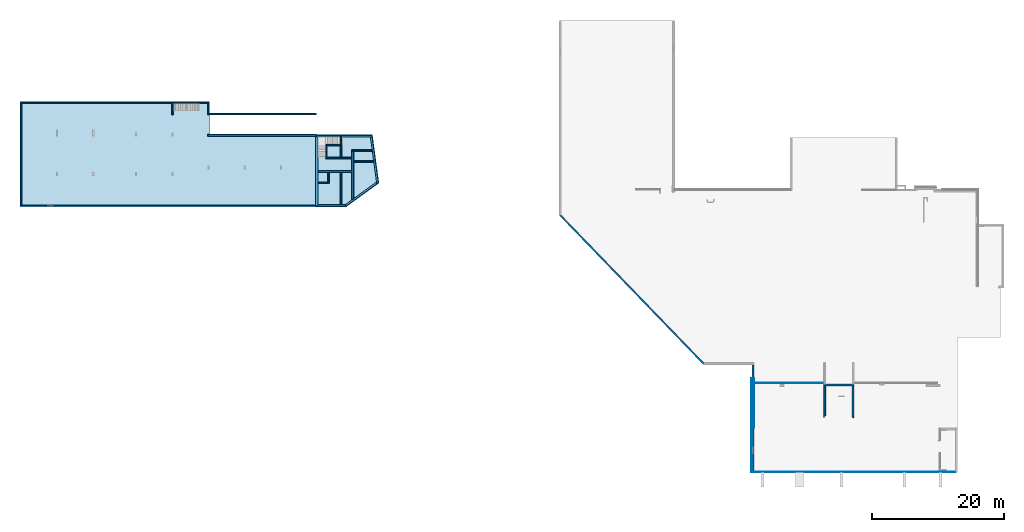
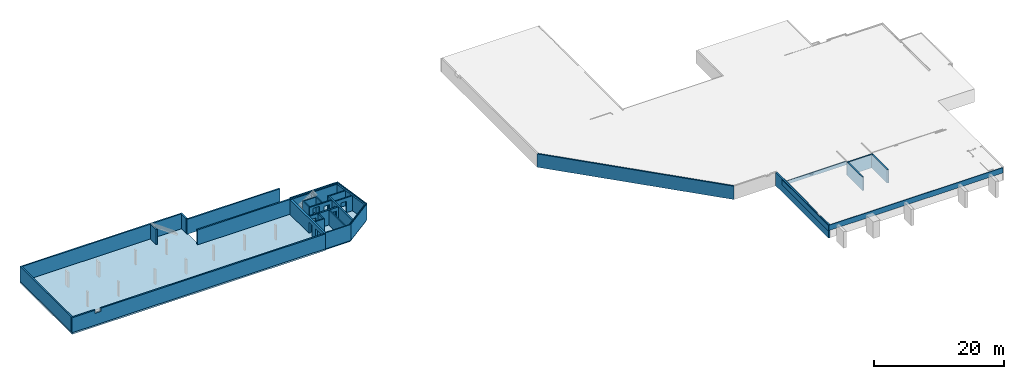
# One storey, part 3 of 10: 32 walls, 1 slab, 10 openings.
"""IFC2X3 building model written with IfcOpenShell, lengths in millimetres."""

from ifc_helpers import new_model, entity, si_unit, converted_unit, frame, frame_2d, origin, origin_with_axes, place, context, subcontext, project, spatial, polyline, rectangle, outline, extrude, clip, bounded_halfspace, material, layer, layer_set, layer_usage, element, save


model = new_model("IFC2X3")

# Units and contexts
model_context = context("Model", 3, precision=1e-05, world=origin())
body_context = subcontext(model_context, "Body", "Model", "MODEL_VIEW")
ifc_project = project(units=[si_unit("LENGTHUNIT", "METRE", prefix="MILLI"), converted_unit("PLANEANGLEUNIT", "DEGREE", entity("IfcPlaneAngleMeasure", 0.0174532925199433), si_unit("PLANEANGLEUNIT", "RADIAN"), dimensions=[0, 0, 0, 0, 0, 0, 0]), si_unit("AREAUNIT", "SQUARE_METRE"), si_unit("VOLUMEUNIT", "CUBIC_METRE")], contexts=[model_context])

# Building, storey
building_placement = place(None, origin())
building = spatial("IfcBuilding", under=ifc_project, at=building_placement, Name="Gebäude", CompositionType="ELEMENT")
storey_placement = place(building_placement, frame((0.0, 0.0, -3205.0), z_axis=(0.0, 0.0, 1.0), x_axis=(1.0, 0.0, 0.0)))
storey = spatial("IfcBuildingStorey", under=building, at=storey_placement, Name="KG.- Grundriss", CompositionType="ELEMENT", Elevation=-3205.0)

# Slab
ifc_material_1 = material(Name="Stb-Bodenplatte")
ifc_layer_1 = layer(ifc_material_1, 300.0)
ifc_layer_set_1 = layer_set([ifc_layer_1])
ifc_layer_usage_1 = layer_usage(ifc_layer_set_1, "AXIS3", "POSITIVE", 0.0)
slab_placement = place(storey_placement, frame((130992.7928067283, 125274.8877324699, -300.0), z_axis=(0.0, 0.0, 1.0), x_axis=(1.0, 0.0, 0.0)))
element("IfcSlab", 1, at=slab_placement, inside=storey, material=ifc_layer_usage_1, Name="<Unnamed Element>", PredefinedType="FLOOR", context=body_context, shape_type="SweptSolid", body=[
    extrude(outline(polyline([(49471.12012752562, 120.0000000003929), (54381.45626509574, 3675.083363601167), (53408.22953878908, 10870.00000000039), (45010.0, 10870.00000000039), (45010.0, 10999.99999999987), (28750.0, 10999.99999999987), (28750.0, 15999.99999999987), (1.455191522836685e-11, 15999.99999999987), (0.0, 3.637978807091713e-10), (45010.0, 0.0), (45010.0, 120.0000000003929), (49471.12012752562, 120.0000000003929)])), origin_with_axes(), (0.0, 0.0, 1.0), 300.0),
])

# Walls
ifc_material_2 = material(Name="Stb-Wand")
ifc_layer_2 = layer(ifc_material_2, 250.0)
ifc_layer_set_2 = layer_set([ifc_layer_2])
ifc_layer_usage_2 = layer_usage(ifc_layer_set_2, "AXIS2", "POSITIVE", 0.0)
wall_1_placement = place(storey_placement, frame((130992.7928067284, 141274.8877324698, 0.0), z_axis=(0.0, 0.0, 1.0), x_axis=(-9.239311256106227e-16, -0.9999999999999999, 0.0)))
element("IfcWallStandardCase", 2, at=wall_1_placement, inside=storey, material=ifc_layer_usage_2, Name="<Unnamed Element>", context=body_context, shape_type="SweptSolid", body=[
    extrude(rectangle(XDim=15749.99999999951, YDim=250.0, at=frame_2d((7874.999999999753, 125.0), x_axis=(1.0, 0.0))), origin_with_axes(), (0.0, 0.0, 1.0), 2805.0),
])
ifc_material_3 = material(Name="Stb-Wand")
ifc_layer_3 = layer(ifc_material_3, 250.0)
ifc_layer_set_3 = layer_set([ifc_layer_3])
ifc_layer_usage_3 = layer_usage(ifc_layer_set_3, "AXIS2", "POSITIVE", 0.0)
wall_2_placement = place(storey_placement, frame((176002.7928067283, 139524.8877324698, 0.0), z_axis=(0.0, 0.0, 1.0), x_axis=(-1.0, 0.0, 0.0)))
element("IfcWallStandardCase", 3, at=wall_2_placement, inside=storey, material=ifc_layer_usage_3, Name="<Unnamed Element>", context=body_context, shape_type="SweptSolid", body=[
    extrude(rectangle(XDim=16510.0, YDim=250.0, at=frame_2d((8255.0, 125.0), x_axis=(1.0, 0.0))), origin_with_axes(), (0.0, 0.0, 1.0), 2805.0),
])
ifc_material_4 = material(Name="Stb-Wand")
ifc_layer_4 = layer(ifc_material_4, 250.0)
ifc_layer_set_4 = layer_set([ifc_layer_4])
ifc_layer_usage_4 = layer_usage(ifc_layer_set_4, "AXIS2", "POSITIVE", 0.0)
wall_3_placement = place(storey_placement, frame((159492.7928067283, 141274.8877324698, 0.0), z_axis=(0.0, 0.0, 1.0), x_axis=(0.0, -1.0, 0.0)))
element("IfcWallStandardCase", 4, at=wall_3_placement, inside=storey, material=ifc_layer_usage_4, Name="<Unnamed Element>", context=body_context, shape_type="SweptSolid", body=[
    extrude(rectangle(XDim=1750.0, YDim=250.0, at=frame_2d((875.0, 125.0), x_axis=(1.0, 0.0))), origin_with_axes(), (0.0, 0.0, 1.0), 2805.0),
])
ifc_material_5 = material(Name="Stb-Wand")
ifc_layer_5 = layer(ifc_material_5, 250.0)
ifc_layer_set_5 = layer_set([ifc_layer_5])
ifc_layer_usage_5 = layer_usage(ifc_layer_set_5, "AXIS2", "POSITIVE", 0.0)
wall_4_placement = place(storey_placement, frame((159492.7928067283, 141274.8877324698, 0.0), z_axis=(0.0, 0.0, 1.0), x_axis=(-1.0, 0.0, 0.0)))
element("IfcWallStandardCase", 5, at=wall_4_placement, inside=storey, material=ifc_layer_usage_5, Name="<Unnamed Element>", context=body_context, shape_type="SweptSolid", body=[
    extrude(rectangle(XDim=28250.0, YDim=250.0, at=frame_2d((14125.0, 125.0), x_axis=(1.0, 0.0))), origin_with_axes(), (0.0, 0.0, 1.0), 2805.0),
])
ifc_material_6 = material(Name="Xella Multipor")
ifc_layer_6 = layer(ifc_material_6, 120.0)
ifc_material_7 = material(Name="Stb-Wand")
ifc_layer_7 = layer(ifc_material_7, 250.0)
ifc_layer_set_6 = layer_set([ifc_layer_6, ifc_layer_7])
ifc_layer_usage_6 = layer_usage(ifc_layer_set_6, "AXIS2", "POSITIVE", 0.0)
wall_5_placement = place(storey_placement, frame((176002.7928067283, 125274.8877324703, 0.0), z_axis=(0.0, 0.0, 1.0), x_axis=(1.0, 0.0, 0.0)))
element("IfcWallStandardCase", 6, at=wall_5_placement, inside=storey, material=ifc_layer_usage_6, Name="<Unnamed Element>", context=body_context, shape_type="Clipping", body=[
    clip(clip(extrude(outline(polyline([(235.0, 370.0), (235.0, 120.0), (0.0, 120.0), (0.0, 0.0), (4500.0, 0.0), (4380.120393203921, 370.0), (235.0, 370.0)])), origin_with_axes(), (0.0, 0.0, 1.0), 3005.0), bounded_halfspace(frame((0.0, 0.0, 3005.0), z_axis=(0.0, 0.0, -1.0), x_axis=(1.0, 0.0, 0.0)), True, origin(), polyline([(0.0, 0.0), (4500.0, 0.0), (4461.120127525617, 120.0), (0.0, 120.0), (0.0, 0.0)]))), bounded_halfspace(frame((235.0, 120.0, 2805.0), z_axis=(-1.358064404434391e-17, 2.251736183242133e-16, -1.0), x_axis=(1.0, 0.0, -2.690099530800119e-17)), True, origin(), polyline([(235.0, 120.0), (4461.120127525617, 120.0), (4380.120393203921, 370.0), (235.0, 370.0), (235.0, 120.0)]))),
])

# Wall, opening
ifc_material_8 = material(Name="Stb-Wand")
ifc_layer_8 = layer(ifc_material_8, 250.0)
ifc_layer_set_7 = layer_set([ifc_layer_8])
ifc_layer_usage_7 = layer_usage(ifc_layer_set_7, "AXIS2", "POSITIVE", 0.0)
wall_6_placement = place(storey_placement, frame((130992.7928067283, 125274.8877324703, 0.0), z_axis=(0.0, 0.0, 1.0), x_axis=(1.0, -8.082601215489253e-15, 0.0)))
wall_6 = element("IfcWallStandardCase", 7, at=wall_6_placement, inside=storey, material=ifc_layer_usage_7, Name="<Unnamed Element>", context=body_context, shape_type="SweptSolid", body=[
    extrude(rectangle(XDim=45010.0, YDim=250.0, at=frame_2d((22505.0, 125.0), x_axis=(1.0, 0.0))), origin_with_axes(), (0.0, 0.0, 1.0), 2805.0),
])
opening_1_placement = place(wall_6_placement, frame((4115.0, 1.673470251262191e-12, 2205.0), z_axis=(0.0, 1.0, 0.0), x_axis=(0.0, 0.0, 1.0)))
element("IfcOpeningElement", 8, at=opening_1_placement, cuts=wall_6, Name="Fensteröffnung", ObjectType="Opening", context=body_context, shape_type="SweptSolid", body=[
    extrude(rectangle(XDim=600.0, YDim=1010.0, at=frame_2d((300.0, 505.0), x_axis=(1.0, 0.0))), origin_with_axes(), (0.0, 0.0, 1.0), 250.0),
])

# Walls
ifc_material_9 = material(Name="Stb-Wand")
ifc_layer_9 = layer(ifc_material_9, 250.0)
ifc_layer_set_8 = layer_set([ifc_layer_9])
ifc_layer_usage_8 = layer_usage(ifc_layer_set_8, "AXIS2", "POSITIVE", 0.0)
wall_7_placement = place(storey_placement, frame((176002.7928067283, 136274.8877324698, 0.0), z_axis=(0.0, 0.0, 1.0), x_axis=(-1.0, 0.0, 0.0)))
element("IfcWallStandardCase", 9, at=wall_7_placement, inside=storey, material=ifc_layer_usage_8, Name="<Unnamed Element>", context=body_context, shape_type="SweptSolid", body=[
    extrude(rectangle(XDim=16510.0, YDim=250.0, at=frame_2d((8255.0, 125.0), x_axis=(1.0, 0.0))), origin_with_axes(), (0.0, 0.0, 1.0), 2805.0),
])
ifc_material_10 = material(Name="Stb-Wand")
ifc_layer_10 = layer(ifc_material_10, 200.0)
ifc_layer_set_9 = layer_set([ifc_layer_10])
ifc_layer_usage_9 = layer_usage(ifc_layer_set_9, "AXIS2", "POSITIVE", 0.0)
wall_8_placement = place(storey_placement, frame((177587.7928067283, 132804.8877324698, 0.0), z_axis=(0.0, 0.0, 1.0), x_axis=(0.0, 1.0, 0.0)))
element("IfcWallStandardCase", 10, at=wall_8_placement, inside=storey, material=ifc_layer_usage_9, Name="<Unnamed Element>", context=body_context, shape_type="SweptSolid", body=[
    extrude(rectangle(XDim=1950.0, YDim=200.0, at=frame_2d((975.0, 100.0), x_axis=(1.0, 0.0))), origin_with_axes(), (0.0, 0.0, 1.0), 2805.0),
])
ifc_material_11 = material(Name="Stb-Wand")
ifc_layer_11 = layer(ifc_material_11, 200.0)
ifc_layer_set_10 = layer_set([ifc_layer_11])
ifc_layer_usage_10 = layer_usage(ifc_layer_set_10, "AXIS2", "POSITIVE", 0.0)
wall_9_placement = place(storey_placement, frame((177587.7928067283, 134554.8877324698, 0.0), z_axis=(0.0, 0.0, 1.0), x_axis=(1.0, 0.0, 0.0)))
element("IfcWallStandardCase", 11, at=wall_9_placement, inside=storey, material=ifc_layer_usage_10, Name="<Unnamed Element>", context=body_context, shape_type="SweptSolid", body=[
    extrude(rectangle(XDim=2050.0, YDim=200.0, at=frame_2d((1025.0, 100.0), x_axis=(1.0, 0.0))), origin_with_axes(), (0.0, 0.0, 1.0), 2805.0),
])
ifc_material_12 = material(Name="Stb-Wand")
ifc_layer_12 = layer(ifc_material_12, 200.0)
ifc_layer_set_11 = layer_set([ifc_layer_12])
ifc_layer_usage_11 = layer_usage(ifc_layer_set_11, "AXIS2", "POSITIVE", 0.0)
wall_10_placement = place(storey_placement, frame((179637.7928067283, 135904.8877324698, 0.0), z_axis=(0.0, 0.0, 1.0), x_axis=(0.0, -1.0, 0.0)))
element("IfcWallStandardCase", 12, at=wall_10_placement, inside=storey, material=ifc_layer_usage_11, Name="<Unnamed Element>", context=body_context, shape_type="SweptSolid", body=[
    extrude(rectangle(XDim=3100.0, YDim=200.0, at=frame_2d((1550.0, 100.0), x_axis=(1.0, 0.0))), origin_with_axes(), (0.0, 0.0, 1.0), 2805.0),
])

# Wall, openings
ifc_material_13 = material(Name="Xella Multipor")
ifc_layer_13 = layer(ifc_material_13, 120.0)
ifc_material_14 = material(Name="Stb-Wand")
ifc_layer_14 = layer(ifc_material_14, 240.0)
ifc_layer_set_12 = layer_set([ifc_layer_13, ifc_layer_14])
ifc_layer_usage_12 = layer_usage(ifc_layer_set_12, "AXIS2", "POSITIVE", 0.0)
wall_11_placement = place(storey_placement, frame((175877.7928067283, 136024.8877324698, 0.0), z_axis=(0.0, 0.0, 1.0), x_axis=(0.0, -0.9999999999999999, 0.0)))
wall_11 = element("IfcWallStandardCase", 13, at=wall_11_placement, inside=storey, material=ifc_layer_usage_12, Name="<Unnamed Element>", context=body_context, shape_type="SweptSolid", body=[
    extrude(outline(polyline([(120.0, 359.9999999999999), (120.0, 120.0), (0.0, 120.0), (0.0, 0.0), (10499.99999999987, 0.0), (10499.99999999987, 125.0), (10629.99999999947, 125.0), (10629.99999999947, 359.9999999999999), (120.0, 359.9999999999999)])), origin_with_axes(), (0.0, 0.0, 1.0), 2805.0),
])
opening_2_placement = place(wall_11_placement, frame((7869.999999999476, 0.0, 0.0), z_axis=(0.0, 1.0, 0.0), x_axis=(0.0, 0.0, 1.0)))
element("IfcOpeningElement", 14, at=opening_2_placement, cuts=wall_11, Name="Türöffnung", ObjectType="Opening", context=body_context, shape_type="SweptSolid", body=[
    extrude(rectangle(XDim=2130.0, YDim=1510.0, at=frame_2d((1065.0, 755.0), x_axis=(1.0, 0.0))), origin_with_axes(), (0.0, 0.0, 1.0), 360.0),
])
opening_3_placement = place(wall_11_placement, frame((5840.0, 0.0, 0.0), z_axis=(0.0, 1.0, 0.0), x_axis=(0.0, 0.0, 1.0)))
element("IfcOpeningElement", 15, at=opening_3_placement, cuts=wall_11, Name="Türöffnung", ObjectType="Opening", context=body_context, shape_type="SweptSolid", body=[
    extrude(rectangle(XDim=2130.0, YDim=1010.0, at=frame_2d((1065.0, 505.0), x_axis=(1.0, 0.0))), origin_with_axes(), (0.0, 0.0, 1.0), 360.0),
])

# Walls
ifc_material_15 = material(Name="Xella Multipor")
ifc_layer_15 = layer(ifc_material_15, 119.9999999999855)
ifc_material_16 = material(Name="Stb-Wand")
ifc_layer_16 = layer(ifc_material_16, 250.0000000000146)
ifc_layer_set_13 = layer_set([ifc_layer_15, ifc_layer_16])
ifc_layer_usage_13 = layer_usage(ifc_layer_set_13, "AXIS2", "POSITIVE", 0.0)
wall_12_placement = place(storey_placement, frame((180502.7928067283, 125274.8877324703, 0.0), z_axis=(0.0, 0.0, 1.0), x_axis=(0.8099951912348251, 0.586436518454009, 0.0)))
element("IfcWallStandardCase", 16, at=wall_12_placement, inside=storey, material=ifc_layer_usage_13, Name="<Unnamed Element>", context=body_context, shape_type="Clipping", body=[
    clip(clip(extrude(outline(polyline([(0.0, 0.0), (6036.71275906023, 4.547473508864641e-13), (6101.059241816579, 119.999999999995), (5817.385504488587, 119.9999999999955), (5951.44067689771, 370.0000000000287), (119.8796067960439, 369.9999999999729), (0.0, 0.0)])), origin_with_axes(), (0.0, 0.0, 1.0), 3005.0), bounded_halfspace(frame((0.0, 0.0, 3005.0), z_axis=(0.0, 0.0, -1.0), x_axis=(1.0, 0.0, 0.0)), True, origin(), polyline([(0.0, 0.0), (6036.71275906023, 4.547473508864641e-13), (6101.059241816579, 119.999999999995), (38.87987247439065, 119.9999999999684), (0.0, 0.0)]))), bounded_halfspace(frame((38.87987247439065, 119.9999999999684, 2805.0), z_axis=(9.792091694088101e-18, 2.231620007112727e-16, -1.0), x_axis=(1.0, 4.662936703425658e-15, 1.967408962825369e-17)), True, origin(), polyline([(38.87987247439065, 119.9999999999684), (5817.385504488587, 119.9999999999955), (5951.44067689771, 370.0000000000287), (119.8796067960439, 369.9999999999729), (38.87987247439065, 119.9999999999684)]))),
])
ifc_material_17 = material(Name="Xella Multipor")
ifc_layer_17 = layer(ifc_material_17, 120.0)
ifc_material_18 = material(Name="Stb-Wand")
ifc_layer_18 = layer(ifc_material_18, 250.0)
ifc_layer_set_14 = layer_set([ifc_layer_17, ifc_layer_18])
ifc_layer_usage_14 = layer_usage(ifc_layer_set_14, "AXIS2", "POSITIVE", 0.0)
wall_13_placement = place(storey_placement, frame((184504.530616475, 136274.8877324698, 0.0), z_axis=(0.0, 0.0, 1.0), x_axis=(-1.0, 0.0, 0.0)))
element("IfcWallStandardCase", 17, at=wall_13_placement, inside=storey, material=ifc_layer_usage_14, Name="<Unnamed Element>", context=body_context, shape_type="Clipping", body=[
    clip(clip(extrude(outline(polyline([(71.04445989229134, 370.0), (104.8609297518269, 120.0), (-16.23190553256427, 120.0), (0.0, 0.0), (8501.737809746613, 0.0), (8501.737809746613, 250.0), (8506.737809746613, 250.0), (8506.737809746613, 370.0), (71.04445989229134, 370.0)])), origin_with_axes(), (0.0, 0.0, 1.0), 3005.0), bounded_halfspace(frame((0.0, 0.0, 3005.0), z_axis=(0.0, 0.0, -1.0), x_axis=(1.0, 0.0, 0.0)), True, origin(), polyline([(0.0, 0.0), (8501.737809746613, 0.0), (8501.737809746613, 120.0), (-16.23190553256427, 120.0), (0.0, 0.0)]))), bounded_halfspace(frame((104.8609297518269, 120.0, 2805.0), z_axis=(0.0, 0.0, -1.0), x_axis=(1.0, 0.0, 0.0)), True, origin(), polyline([(104.8609297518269, 120.0), (8501.737809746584, 120.0), (8501.737809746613, 250.0), (8506.737809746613, 250.0), (8506.737809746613, 370.0), (71.04445989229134, 370.0), (104.8609297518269, 120.0)]))),
])

# Wall, openings
ifc_material_19 = material(Name="Stb-Wand")
ifc_layer_19 = layer(ifc_material_19, 200.0)
ifc_layer_set_15 = layer_set([ifc_layer_19])
ifc_layer_usage_15 = layer_usage(ifc_layer_set_15, "AXIS2", "POSITIVE", 0.0)
wall_14_placement = place(storey_placement, frame((181387.7928067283, 132804.8877324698, 0.0), z_axis=(0.0, 0.0, 1.0), x_axis=(-1.0, 0.0, 0.0)))
wall_14 = element("IfcWallStandardCase", 18, at=wall_14_placement, inside=storey, material=ifc_layer_usage_15, Name="<Unnamed Element>", context=body_context, shape_type="SweptSolid", body=[
    extrude(rectangle(XDim=4000.0, YDim=200.0, at=frame_2d((2000.0, 100.0), x_axis=(1.0, 0.0))), origin_with_axes(), (0.0, 0.0, 1.0), 2805.0),
])
opening_4_placement = place(wall_14_placement, frame((420.0, 0.0, 0.0), z_axis=(0.0, 1.0, 0.0), x_axis=(0.0, 0.0, 1.0)))
element("IfcOpeningElement", 19, at=opening_4_placement, cuts=wall_14, Name="Türöffnung", ObjectType="Opening", context=body_context, shape_type="SweptSolid", body=[
    extrude(rectangle(XDim=2130.0, YDim=1010.0, at=frame_2d((1065.0, 505.0), x_axis=(1.0, 0.0))), origin_with_axes(), (0.0, 0.0, 1.0), 200.0),
])
opening_5_placement = place(wall_14_placement, frame((2185.0, 0.0, 0.0), z_axis=(0.0, 1.0, 0.0), x_axis=(0.0, 0.0, 1.0)))
element("IfcOpeningElement", 20, at=opening_5_placement, cuts=wall_14, Name="Türöffnung", ObjectType="Opening", context=body_context, shape_type="SweptSolid", body=[
    extrude(rectangle(XDim=2430.0, YDim=1180.0, at=frame_2d((1215.0, 590.0), x_axis=(1.0, 0.0))), origin_with_axes(), (0.0, 0.0, 1.0), 200.0),
])

ifc_material_20 = material(Name="Stb-Wand")
ifc_layer_20 = layer(ifc_material_20, 250.0)
ifc_layer_set_16 = layer_set([ifc_layer_20])
ifc_layer_usage_16 = layer_usage(ifc_layer_set_16, "AXIS2", "POSITIVE", 0.0)
wall_15_placement = place(storey_placement, frame((181387.7928067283, 130804.8877324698, 0.0), z_axis=(0.0, 0.0, 1.0), x_axis=(-1.0, 0.0, 0.0)))
wall_15 = element("IfcWallStandardCase", 21, at=wall_15_placement, inside=storey, material=ifc_layer_usage_16, Name="<Unnamed Element>", context=body_context, shape_type="SweptSolid", body=[
    extrude(rectangle(XDim=5150.0, YDim=250.0, at=frame_2d((2575.0, 125.0), x_axis=(1.0, 0.0))), origin_with_axes(), (0.0, 0.0, 1.0), 2805.0),
])
opening_6_placement = place(wall_15_placement, frame((420.0, 0.0, 0.0), z_axis=(0.0, 1.0, 0.0), x_axis=(0.0, 0.0, 1.0)))
element("IfcOpeningElement", 22, at=opening_6_placement, cuts=wall_15, Name="Türöffnung", ObjectType="Opening", context=body_context, shape_type="SweptSolid", body=[
    extrude(rectangle(XDim=2130.0, YDim=1010.0, at=frame_2d((1065.0, 505.0), x_axis=(1.0, 0.0))), origin_with_axes(), (0.0, 0.0, 1.0), 250.0),
])
opening_7_placement = place(wall_15_placement, frame((4020.0, 0.0, 0.0), z_axis=(0.0, 1.0, 0.0), x_axis=(0.0, 0.0, 1.0)))
element("IfcOpeningElement", 23, at=opening_7_placement, cuts=wall_15, Name="Türöffnung", ObjectType="Opening", context=body_context, shape_type="SweptSolid", body=[
    extrude(rectangle(XDim=2130.0, YDim=1010.0, at=frame_2d((1065.0, 505.0), x_axis=(1.0, 0.0))), origin_with_axes(), (0.0, 0.0, 1.0), 250.0),
])

# Wall
ifc_material_21 = material(Name="Xella Multipor")
ifc_layer_21 = layer(ifc_material_21, 119.9999999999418)
ifc_material_22 = material(Name="Stb-Wand")
ifc_layer_22 = layer(ifc_material_22, 250.0000000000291)
ifc_layer_set_17 = layer_set([ifc_layer_21, ifc_layer_22])
ifc_layer_usage_17 = layer_usage(ifc_layer_set_17, "AXIS2", "POSITIVE", 0.0)
wall_16_placement = place(storey_placement, frame((185502.7928067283, 128894.8877324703, 0.0), z_axis=(0.0, 0.0, 1.0), x_axis=(-0.1340451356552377, 0.9909752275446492, 0.0)))
element("IfcWallStandardCase", 24, at=wall_16_placement, inside=storey, material=ifc_layer_usage_17, Name="<Unnamed Element>", context=body_context, shape_type="Clipping", body=[
    clip(clip(extrude(outline(polyline([(0.0, 0.0), (7326.116534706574, 0.0), (7342.348440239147, 119.9999999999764), (7090.071700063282, 119.9999999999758), (7123.888169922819, 369.9999999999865), (-62.23826124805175, 369.9999999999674), (71.81691116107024, 119.999999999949), (-64.3464827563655, 119.9999999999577), (0.0, 0.0)])), origin_with_axes(), (0.0, 0.0, 1.0), 3005.0), bounded_halfspace(frame((0.0, 0.0, 3005.0), z_axis=(0.0, 0.0, -1.0), x_axis=(1.0, 0.0, 0.0)), True, origin(), polyline([(0.0, 0.0), (7326.116534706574, 0.0), (7342.348440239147, 119.9999999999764), (-64.3464827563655, 119.9999999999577), (0.0, 0.0)]))), bounded_halfspace(frame((71.81691116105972, 119.9999999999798, 2805.0), z_axis=(0.0, 0.0, -1.0), x_axis=(1.0, -5.551115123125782e-16, 0.0)), True, origin(), polyline([(71.81691116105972, 119.9999999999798), (7090.071700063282, 119.9999999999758), (7123.888169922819, 369.9999999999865), (-62.23826124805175, 369.9999999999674), (71.81691116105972, 119.9999999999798)]))),
])

# Wall, opening
ifc_material_23 = material(Name="Stb-Wand")
ifc_layer_23 = layer(ifc_material_23, 250.0)
ifc_layer_set_18 = layer_set([ifc_layer_23])
ifc_layer_usage_18 = layer_usage(ifc_layer_set_18, "AXIS2", "POSITIVE", 0.0)
wall_17_placement = place(storey_placement, frame((181387.7928067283, 133764.8877324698, 0.0), z_axis=(0.0, 0.0, 1.0), x_axis=(0.0, -1.0, 0.0)))
wall_17 = element("IfcWallStandardCase", 25, at=wall_17_placement, inside=storey, material=ifc_layer_usage_18, Name="<Unnamed Element>", context=body_context, shape_type="SweptSolid", body=[
    extrude(outline(polyline([(0.0, 0.0), (7392.467164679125, 0.0), (7211.467164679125, 250.0), (0.0, 250.0), (0.0, 0.0)])), origin_with_axes(), (0.0, 0.0, 1.0), 2805.0),
])
opening_8_placement = place(wall_17_placement, frame((1830.0, 0.0, 0.0), z_axis=(0.0, 1.0, 0.0), x_axis=(0.0, 0.0, 1.0)))
element("IfcOpeningElement", 26, at=opening_8_placement, cuts=wall_17, Name="Türöffnung", ObjectType="Opening", context=body_context, shape_type="SweptSolid", body=[
    extrude(rectangle(XDim=2130.0, YDim=1010.0, at=frame_2d((1065.0, 505.0), x_axis=(1.0, 0.0))), origin_with_axes(), (0.0, 0.0, 1.0), 250.0),
])

# Walls
ifc_material_24 = material(Name="Stb-Wand")
ifc_layer_24 = layer(ifc_material_24, 199.9999999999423)
ifc_layer_set_19 = layer_set([ifc_layer_24])
ifc_layer_usage_19 = layer_usage(ifc_layer_set_19, "AXIS2", "POSITIVE", 0.0)
wall_18_placement = place(storey_placement, frame((181387.7928067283, 133764.8877324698, 0.0), z_axis=(0.0, 0.0, 1.0), x_axis=(1.0, 1.888090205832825e-14, 0.0)))
element("IfcWallStandardCase", 27, at=wall_18_placement, inside=storey, material=ifc_layer_usage_19, Name="<Unnamed Element>", context=body_context, shape_type="SweptSolid", body=[
    extrude(outline(polyline([(0.0, 0.0), (3082.88559167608, 0.0), (3055.832415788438, 199.9999999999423), (3.77618041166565e-12, 200.0), (0.0, 0.0)])), origin_with_axes(), (0.0, 0.0, 1.0), 2805.0),
])
ifc_material_25 = material(Name="KSPE Mauerwerk")
ifc_layer_25 = layer(ifc_material_25, 200.0)
ifc_layer_set_20 = layer_set([ifc_layer_25])
ifc_layer_usage_20 = layer_usage(ifc_layer_set_20, "AXIS2", "POSITIVE", 0.0)
wall_19_placement = place(storey_placement, frame((179637.7928067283, 130554.8877324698, 0.0), z_axis=(0.0, 0.0, 1.0), x_axis=(0.0, -1.0, 0.0)))
element("IfcWallStandardCase", 28, at=wall_19_placement, inside=storey, material=ifc_layer_usage_20, Name="<Unnamed Element>", context=body_context, shape_type="SweptSolid", body=[
    extrude(rectangle(XDim=4904.999999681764, YDim=200.0, at=frame_2d((2452.499999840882, 100.0), x_axis=(1.0, 0.0))), origin_with_axes(), (0.0, 0.0, 1.0), 2805.0),
])
ifc_material_26 = material(Name="KSPE Mauerwerk")
ifc_layer_26 = layer(ifc_material_26, 200.0)
ifc_layer_set_21 = layer_set([ifc_layer_26])
ifc_layer_usage_21 = layer_usage(ifc_layer_set_21, "AXIS2", "POSITIVE", 0.0)
wall_20_placement = place(storey_placement, frame((177937.7928067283, 129054.8877324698, 0.0), z_axis=(0.0, 0.0, 1.0), x_axis=(-0.9999999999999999, 0.0, 0.0)))
element("IfcWallStandardCase", 29, at=wall_20_placement, inside=storey, material=ifc_layer_usage_21, Name="<Unnamed Element>", context=body_context, shape_type="SweptSolid", body=[
    extrude(rectangle(XDim=1700.0, YDim=200.0, at=frame_2d((850.0, 99.99999999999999), x_axis=(1.0, 0.0))), origin_with_axes(), (0.0, 0.0, 1.0), 2805.0),
])
ifc_material_27 = material(Name="KSPE Mauerwerk")
ifc_layer_27 = layer(ifc_material_27, 200.0)
ifc_layer_set_22 = layer_set([ifc_layer_27])
ifc_layer_usage_22 = layer_usage(ifc_layer_set_22, "AXIS2", "POSITIVE", 0.0)
wall_21_placement = place(storey_placement, frame((177737.7928067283, 130554.8877324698, 0.0), z_axis=(0.0, 0.0, 1.0), x_axis=(0.0, -1.0, 0.0)))
element("IfcWallStandardCase", 30, at=wall_21_placement, inside=storey, material=ifc_layer_usage_22, Name="<Unnamed Element>", context=body_context, shape_type="SweptSolid", body=[
    extrude(rectangle(XDim=1500.0, YDim=200.0, at=frame_2d((750.0, 100.0), x_axis=(1.0, 0.0))), origin_with_axes(), (0.0, 0.0, 1.0), 2805.0),
])

# Wall, opening
ifc_material_28 = material(Name="KSPE Mauerwerk")
ifc_layer_28 = layer(ifc_material_28, 200.0)
ifc_layer_set_23 = layer_set([ifc_layer_28])
ifc_layer_usage_23 = layer_usage(ifc_layer_set_23, "AXIS2", "POSITIVE", 0.0)
wall_22_placement = place(storey_placement, frame((181637.7928067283, 132064.8877324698, 0.0), z_axis=(0.0, 0.0, 1.0), x_axis=(1.0, 0.0, 0.0)))
wall_22 = element("IfcWallStandardCase", 31, at=wall_22_placement, inside=storey, material=ifc_layer_usage_23, Name="<Unnamed Element>", context=body_context, shape_type="SweptSolid", body=[
    extrude(outline(polyline([(0.0, 0.0), (3062.837586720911, 0.0), (3035.784410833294, 200.0), (0.0, 200.0), (0.0, 0.0)])), origin_with_axes(), (0.0, 0.0, 1.0), 2805.0),
])
opening_9_placement = place(wall_22_placement, frame((1000.0, 0.0, 0.0), z_axis=(0.0, 1.0, 0.0), x_axis=(0.0, 0.0, 1.0)))
element("IfcOpeningElement", 32, at=opening_9_placement, cuts=wall_22, Name="Türöffnung", ObjectType="Opening", context=body_context, shape_type="SweptSolid", body=[
    extrude(rectangle(XDim=2130.0, YDim=1010.0, at=frame_2d((1065.0, 505.0), x_axis=(1.0, 0.0))), origin_with_axes(), (0.0, 0.0, 1.0), 200.0),
])

# Walls
ifc_material_29 = material(Name="Stb-Wand")
ifc_layer_29 = layer(ifc_material_29, 250.0)
ifc_layer_set_24 = layer_set([ifc_layer_29])
ifc_layer_usage_24 = layer_usage(ifc_layer_set_24, "AXIS2", "POSITIVE", 0.0)
wall_23_placement = place(storey_placement, frame((153992.7928053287, 141024.8877324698, 0.0), z_axis=(0.0, 0.0, 1.0), x_axis=(0.0, -1.0, 0.0)))
element("IfcWallStandardCase", 33, at=wall_23_placement, inside=storey, material=ifc_layer_usage_24, Name="<Unnamed Element>", context=body_context, shape_type="SweptSolid", body=[
    extrude(rectangle(XDim=1750.0, YDim=250.0, at=frame_2d((875.0, 125.0), x_axis=(1.0, 0.0))), origin_with_axes(), (0.0, 0.0, 1.0), 2805.0),
])
ifc_material_30 = material(Name="<Unnamed Material>")
ifc_layer_30 = layer(ifc_material_30, 60.0)
ifc_layer_set_25 = layer_set([ifc_layer_30])
ifc_layer_usage_25 = layer_usage(ifc_layer_set_25, "AXIS2", "POSITIVE", 0.0)
wall_24_placement = place(storey_placement, frame((242392.726379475, 99279.88895093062, 5055.0), z_axis=(0.0, 0.0, 1.0), x_axis=(-7.725153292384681e-15, -1.0, 0.0)))
element("IfcWallStandardCase", 34, at=wall_24_placement, inside=storey, material=ifc_layer_usage_25, Name="<Unnamed Element>", context=body_context, shape_type="SweptSolid", body=[
    extrude(rectangle(XDim=7534.822767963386, YDim=60.0, at=frame_2d((3767.411383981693, 30.0), x_axis=(1.0, 0.0))), origin_with_axes(), (0.0, 0.0, 1.0), 650.0),
])
ifc_material_31 = material(Name="<Unnamed Material>")
ifc_layer_31 = layer(ifc_material_31, 100.0)
ifc_layer_set_26 = layer_set([ifc_layer_31])
ifc_layer_usage_26 = layer_usage(ifc_layer_set_26, "AXIS2", "POSITIVE", 0.0)
wall_25_placement = place(storey_placement, frame((242452.726379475, 98495.06618296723, 5055.0), z_axis=(0.0, 0.0, 1.0), x_axis=(1.0, -6.883606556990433e-15, 0.0)))
element("IfcWallStandardCase", 35, at=wall_25_placement, inside=storey, material=ifc_layer_usage_26, Name="<Unnamed Element>", context=body_context, shape_type="SweptSolid", body=[
    extrude(rectangle(XDim=10569.97891141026, YDim=100.0, at=frame_2d((5284.98945570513, 50.0), x_axis=(1.0, 0.0))), origin_with_axes(), (0.0, 0.0, 1.0), 650.0),
])
ifc_material_32 = material(Name="Stb-Wand")
ifc_layer_32 = layer(ifc_material_32, 250.0000000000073)
ifc_layer_set_27 = layer_set([ifc_layer_32])
ifc_layer_usage_27 = layer_usage(ifc_layer_set_27, "AXIS2", "POSITIVE", 0.0)
wall_26_placement = place(storey_placement, frame((234831.2382164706, 101590.0661829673, 3205.0), z_axis=(0.0, 0.0, 1.0), x_axis=(-0.6946583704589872, 0.7193398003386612, 0.0)))
element("IfcWallStandardCase", 36, at=wall_26_placement, inside=storey, material=ifc_layer_usage_27, Name="<Unnamed Element>", context=body_context, shape_type="SweptSolid", body=[
    extrude(outline(polyline([(0.0, 0.0), (31272.28424618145, -1.818989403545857e-12), (31373.29080264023, 250.0000000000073), (-106.1187040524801, 249.9999999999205), (0.0, 0.0)])), origin_with_axes(), (0.0, 0.0, 1.0), 2500.0),
])
ifc_material_33 = material(Name="Stb-Wand")
ifc_layer_33 = layer(ifc_material_33, 200.0)
ifc_material_34 = material(Name="<Unnamed Material>")
ifc_layer_34 = layer(ifc_material_34, 60.0)
ifc_layer_set_28 = layer_set([ifc_layer_33, ifc_layer_34])
ifc_layer_usage_28 = layer_usage(ifc_layer_set_28, "AXIS2", "POSITIVE", 0.0)
wall_27_placement = place(storey_placement, frame((257322.7052904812, 98105.06618296, 3205.0), z_axis=(0.0, 0.0, 1.0), x_axis=(0.0, -1.0, 0.0)))
element("IfcWallStandardCase", 37, at=wall_27_placement, inside=storey, material=ifc_layer_usage_28, Name="<Unnamed Element>", context=body_context, shape_type="SweptSolid", body=[
    extrude(outline(polyline([(0.0, 0.0), (4749.999996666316, 0.0), (4749.999996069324, 200.0), (4809.999996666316, 200.0), (4809.999996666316, 260.0), (-200.0, 260.0), (-200.0, 200.0), (0.0, 200.0), (0.0, 0.0)])), origin_with_axes(), (0.0, 0.0, 1.0), 2500.0),
])
ifc_material_35 = material(Name="Stb-Wand")
ifc_layer_35 = layer(ifc_material_35, 200.0)
ifc_material_36 = material(Name="<Unnamed Material>")
ifc_layer_36 = layer(ifc_material_36, 59.99999999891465)
ifc_layer_set_29 = layer_set([ifc_layer_35, ifc_layer_36])
ifc_layer_usage_29 = layer_usage(ifc_layer_set_29, "AXIS2", "POSITIVE", 0.0)
wall_28_placement = place(storey_placement, frame((253282.7052908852, 93555.06618398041, 3205.0), z_axis=(0.0, 0.0, 1.0), x_axis=(0.0, 1.0, 0.0)))
element("IfcWallStandardCase", 38, at=wall_28_placement, inside=storey, material=ifc_layer_usage_29, Name="<Unnamed Element>", context=body_context, shape_type="SweptSolid", body=[
    extrude(outline(polyline([(0.0, 0.0), (4549.999998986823, 0.0), (4549.999998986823, 200.0), (4749.999998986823, 200.0), (4749.999998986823, 260.0), (-200.0000099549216, 260.0), (-200.0000097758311, 200.0), (0.0, 200.0), (0.0, 0.0)])), origin_with_axes(), (0.0, 0.0, 1.0), 2500.0),
])
ifc_material_37 = material(Name="Stb-Wand")
ifc_layer_37 = layer(ifc_material_37, 200.0)
ifc_material_38 = material(Name="<Unnamed Material>")
ifc_layer_38 = layer(ifc_material_38, 60.0)
ifc_layer_set_30 = layer_set([ifc_layer_37, ifc_layer_38])
ifc_layer_usage_30 = layer_usage(ifc_layer_set_30, "AXIS2", "POSITIVE", 0.0)
wall_29_placement = place(storey_placement, frame((253082.7052908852, 98105.06618296, 3205.0), z_axis=(0.0, 0.0, 1.0), x_axis=(1.0, 0.0, 0.0)))
element("IfcWallStandardCase", 39, at=wall_29_placement, inside=storey, material=ifc_layer_usage_30, Name="<Unnamed Element>", context=body_context, shape_type="SweptSolid", body=[
    extrude(outline(polyline([(0.0, 0.0), (4439.999999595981, 0.0), (4439.999999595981, 200.0), (4499.999999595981, 200.0), (4499.999999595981, 260.0), (-60.0, 260.0), (-60.0, 200.0), (0.0, 200.0), (0.0, 0.0)])), origin_with_axes(), (0.0, 0.0, 1.0), 2500.0),
])

# Wall, opening
ifc_material_39 = material(Name="Stb-Wand")
ifc_layer_39 = layer(ifc_material_39, 250.0)
ifc_layer_set_31 = layer_set([ifc_layer_39])
ifc_layer_usage_31 = layer_usage(ifc_layer_set_31, "AXIS2", "POSITIVE", 0.0)
wall_30_placement = place(storey_placement, frame((242142.726379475, 101340.0661829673, 3205.0), z_axis=(0.0, 0.0, 1.0), x_axis=(-7.166224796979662e-15, -1.0, 0.0)))
wall_30 = element("IfcWallStandardCase", 40, at=wall_30_placement, inside=storey, material=ifc_layer_usage_31, Name="<Unnamed Element>", context=body_context, shape_type="SweptSolid", body=[
    extrude(rectangle(XDim=16245.00000000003, YDim=250.0, at=frame_2d((8122.500000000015, 125.0), x_axis=(1.0, 0.0))), origin_with_axes(), (0.0, 0.0, 1.0), 2500.0),
])
opening_10_placement = place(wall_30_placement, frame((12495.00000000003, -1.164153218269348e-10, 1900.0), z_axis=(0.0, 1.0, 0.0), x_axis=(0.0, 0.0, 1.0)))
element("IfcOpeningElement", 41, at=opening_10_placement, cuts=wall_30, Name="Fensteröffnung", ObjectType="Opening", context=body_context, shape_type="SweptSolid", body=[
    extrude(rectangle(XDim=600.0, YDim=1010.0, at=frame_2d((300.0, 505.0), x_axis=(1.0, 0.0))), origin_with_axes(), (0.0, 0.0, 1.0), 250.0),
])

# Walls
ifc_material_40 = material(Name="<Unnamed Material>")
ifc_layer_40 = layer(ifc_material_40, 120.0247388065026)
ifc_layer_set_32 = layer_set([ifc_layer_40])
ifc_layer_usage_32 = layer_usage(ifc_layer_set_32, "AXIS2", "POSITIVE", 0.0)
wall_31_placement = place(storey_placement, frame((242142.7474684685, 84975.06618296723, 4705.0), z_axis=(0.0, 0.0, 1.0), x_axis=(0.9999999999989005, -1.482863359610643e-06, 0.0)))
element("IfcWallStandardCase", 42, at=wall_31_placement, inside=storey, material=ifc_layer_usage_32, Name="<Unnamed Element>", context=body_context, shape_type="SweptSolid", body=[
    extrude(outline(polyline([(0.0, 0.0), (30904.9367330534, 0.0), (30904.93655507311, 120.0247388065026), (2819.978733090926, 119.9830926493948), (-0.0001779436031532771, 119.9999999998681), (0.0, 0.0)])), origin_with_axes(), (0.0, 0.0, 1.0), 1000.0),
])
ifc_material_41 = material(Name="<Unnamed Material>")
ifc_layer_41 = layer(ifc_material_41, 119.9998215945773)
ifc_layer_set_33 = layer_set([ifc_layer_41])
ifc_layer_usage_33 = layer_usage(ifc_layer_set_33, "AXIS2", "POSITIVE", 0.0)
wall_32_placement = place(storey_placement, frame((242022.7263794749, 99280.06618296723, 4705.0), z_axis=(0.0, 0.0, 1.0), x_axis=(1.486710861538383e-06, -0.9999999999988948, 0.0)))
element("IfcWallStandardCase", 43, at=wall_32_placement, inside=storey, material=ifc_layer_usage_33, Name="<Unnamed Element>", context=body_context, shape_type="SweptSolid", body=[
    extrude(outline(polyline([(0.0, 0.0), (14304.99982207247, -3.469446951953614e-18), (14305.00017842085, 119.9998215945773), (14281.00856653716, 119.9998572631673), (14185.00017841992, 119.999286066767), (14185.00017838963, 119.9789110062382), (11445.00017839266, 119.9829845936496), (0.0001784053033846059, 119.9999999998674), (0.0, 0.0)])), origin_with_axes(), (0.0, 0.0, 1.0), 1000.0),
])

save(model, "model.ifc")
